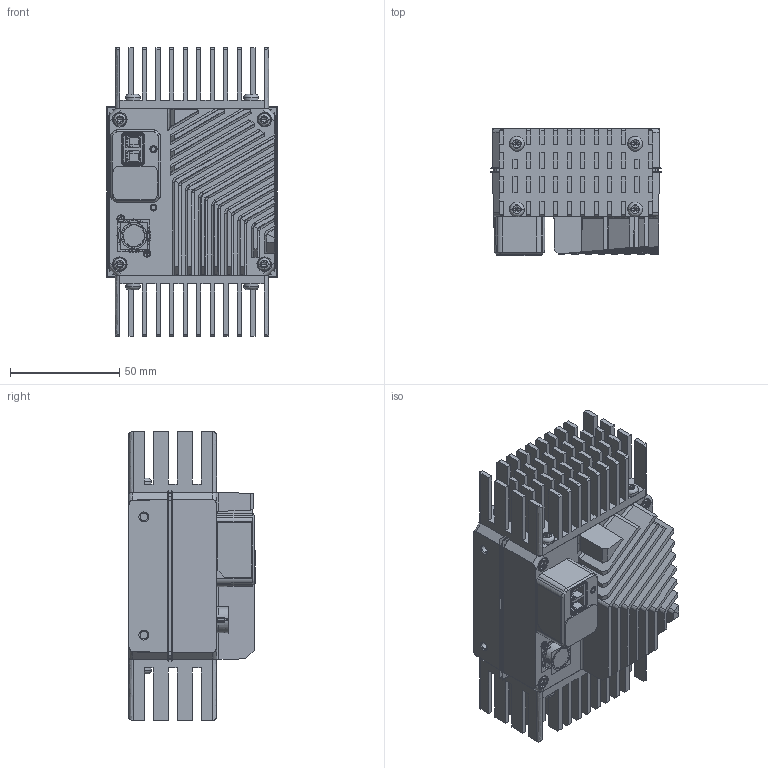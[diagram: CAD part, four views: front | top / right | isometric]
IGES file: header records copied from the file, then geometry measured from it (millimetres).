
Start section:  PTC IGES file: mv-cl082-91f1m.igs
Global section: file name: mv-cl082-91f1m.igs; native system: Creo Parametric by PTC Inc.; preprocessor: 2020044; author: zhangfeixiang8; organization: Unknown; date: 20231205.154622; units: millimetre
Bounding box: 78 x 58 x 132 mm (x, y, z)
Volume: 303606.1 mm3; surface area: 196646 mm2
Topology: 12 solids, 79 shells, 3658 faces, 14956 edges, 15658 vertices
Faces by surface type: bspline 2196, revolution 1414, extrusion 48
